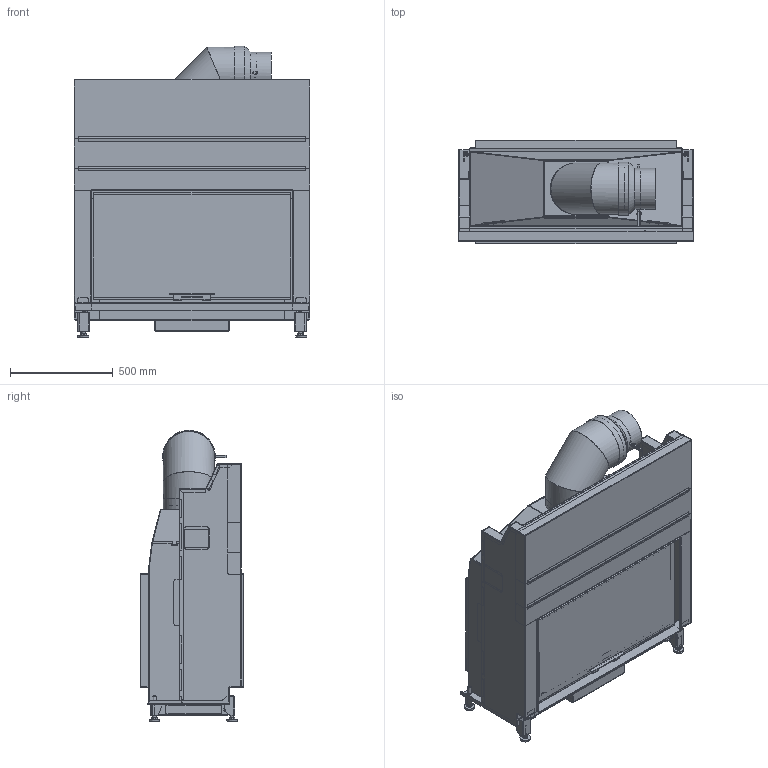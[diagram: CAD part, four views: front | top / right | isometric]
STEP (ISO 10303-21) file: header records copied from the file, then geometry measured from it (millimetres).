
FILE_DESCRIPTION(/* description */ (''),/* implementation_level */ '2;1');
FILE_NAME(/* name */ 'O:\F&E\02_ Produkte\Violino 55x98 Tunnel\3D Export Files\Violino_Tunnel_55x98_Seitlich_Gen1_2023-0052.stp',/* time_stamp */ '2023-02-16T11:45:19+01:00',/* author */ ('TIS'),/* organization */ (''),/* preprocessor_version */ 'ST-DEVELOPER v18.1',/* originating_system */ 'Autodesk Inventor 2022',/* authorisation */ '');
FILE_SCHEMA (('AUTOMOTIVE_DESIGN { 1 0 10303 214 3 1 1 }'));
Products named in the file (10): 2023-00552; 2023-00551; 2023-00549; 2023-00548; 2023-00547; 2023-00542; 2023-00539; 2023-00537; 2016-00457; 2016-00459
Assembly tree (9 placements, depth 2):
  2023-00552
    2023-00551
    2023-00549
    2023-00548
    2023-00547
    2023-00542
    2023-00539
    2023-00537
    2016-00457
    2016-00459
Bounding box: 1146 x 499.5 x 1415 mm (x, y, z)
Volume: 26892560.4 mm3; surface area: 18583813.2 mm2
Topology: 9 solids, 14 shells, 5296 faces, 14345 edges, 8950 vertices
Faces by surface type: plane 2951, cylinder 2013, bspline 191, cone 110, torus 31
Full cylindrical faces by diameter (mm): 4.5 x4, 6 x3, 10 x3, 16 x10, 30 x4, 244 x1, 250 x1
Entity records: 176445 total; most frequent: CARTESIAN_POINT 35762, ORIENTED_EDGE 28738, DIRECTION 28000, EDGE_CURVE 14381, LINE 9540, VECTOR 9540, AXIS2_PLACEMENT_3D 9230, VERTEX_POINT 8977
